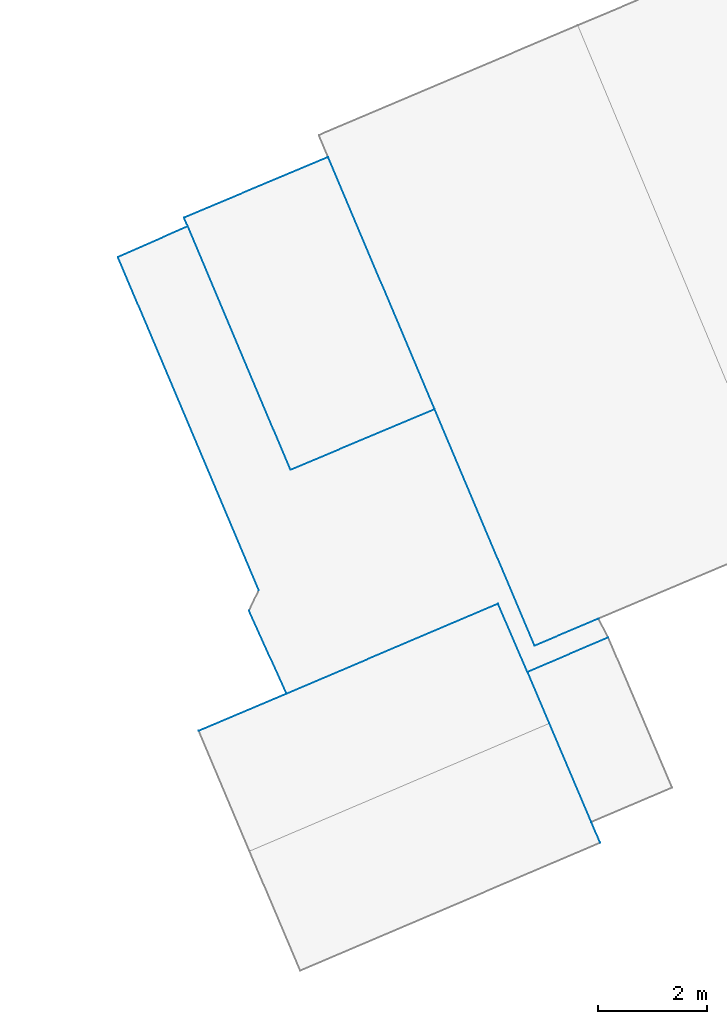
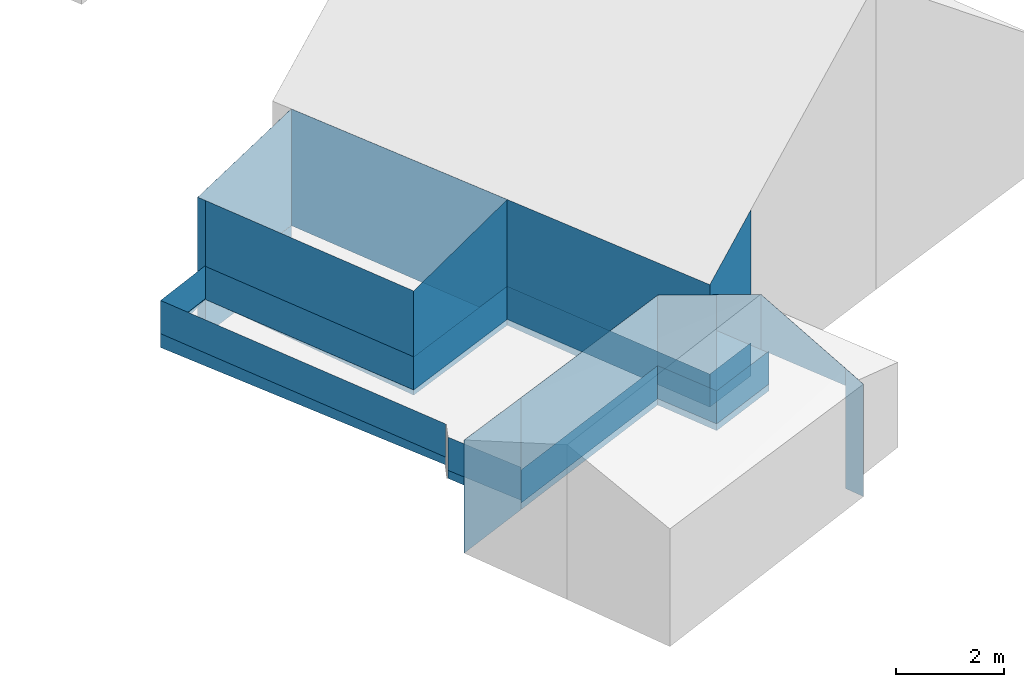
# Not in any storey, part 31 of 59: 40 walls.
"""IFC4 building model written with IfcOpenShell, lengths in metres."""

from ifc_helpers import new_model, entity, si_unit, converted_unit, frame, origin, place, context, subcontext, project, spatial, face_set, surface_model, element, save


model = new_model("IFC4")

# Units and contexts
model_context = context("Model", 3, precision=1e-05, world=origin())
body_context = subcontext(model_context, "Body", "Model", "MODEL_VIEW")
ifc_project = project(units=[converted_unit("PLANEANGLEUNIT", "DEGREE", entity("IfcRatioMeasure", 0.0174532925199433), si_unit("PLANEANGLEUNIT", "RADIAN"), dimensions=[0, 0, 0, 0, 0, 0, 0]), si_unit("AREAUNIT", "SQUARE_METRE"), si_unit("LENGTHUNIT", "METRE")], contexts=[model_context])

# Site, building
site_placement = place(None, origin())
site = spatial("IfcSite", under=ifc_project, at=site_placement, Name="_site")
building_1_placement = place(site_placement, origin())
building_1 = spatial("IfcBuilding", under=site, at=building_1_placement, Name="_building")

# Walls
wall_1_placement = place(building_1_placement, origin())
element("IfcWall", 1, at=wall_1_placement, inside=building_1, Name="Wall", PredefinedType="NOTDEFINED", context=body_context, shape_type="SurfaceModel", body=[
    surface_model("IfcFaceBasedSurfaceModel", [(205.62, 189.57, 219.91), (206.39, 187.76, 219.06), (206.39, 187.76, 218.67), (205.62, 189.57, 218.663)], [face_set([[[0, 1, 2, 3]]])]),
])
wall_2_placement = place(building_1_placement, origin())
element("IfcWall", 2, at=wall_2_placement, inside=building_1, Name="Wall", PredefinedType="NOTDEFINED", context=body_context, shape_type="SurfaceModel", body=[
    surface_model("IfcFaceBasedSurfaceModel", [(205.22, 190.51, 219.47), (205.62, 189.57, 219.91), (205.62, 189.57, 218.663), (205.22, 190.51, 218.66)], [face_set([[[0, 1, 2, 3]]])]),
])
wall_3_placement = place(building_1_placement, origin())
element("IfcWall", 3, at=wall_3_placement, inside=building_1, Name="Wall", PredefinedType="NOTDEFINED", context=body_context, shape_type="SurfaceModel", body=[
    surface_model("IfcFaceBasedSurfaceModel", [(206.521, 191.488, 220.352), (205.35, 190.99, 219.36), (205.35, 190.99, 216.399), (206.521, 191.488, 216.399)], [face_set([[[0, 1, 2, 3]]])]),
])
wall_4_placement = place(building_1_placement, origin())
element("IfcWall", 4, at=wall_4_placement, inside=building_1, Name="Wall", PredefinedType="NOTDEFINED", context=body_context, shape_type="SurfaceModel", body=[
    surface_model("IfcFaceBasedSurfaceModel", [(204.68, 191.76, 218.89), (205.22, 190.51, 219.47), (205.22, 190.51, 216.396), (204.68, 191.76, 216.408)], [face_set([[[0, 1, 2, 3]]])]),
])
wall_5_placement = place(building_1_placement, origin())
element("IfcWall", 5, at=wall_5_placement, inside=building_1, Name="Wall", PredefinedType="NOTDEFINED", context=body_context, shape_type="SurfaceModel", body=[
    surface_model("IfcFaceBasedSurfaceModel", [(205.35, 190.99, 219.36), (203.52, 195.32, 219.3), (203.52, 195.32, 216.458), (205.35, 190.99, 216.399)], [face_set([[[0, 1, 2, 3]]])]),
])
wall_6_placement = place(building_1_placement, origin())
element("IfcWall", 6, at=wall_6_placement, inside=building_1, Name="Wall", PredefinedType="NOTDEFINED", context=body_context, shape_type="SurfaceModel", body=[
    surface_model("IfcFaceBasedSurfaceModel", [(203.52, 195.32, 219.3), (200.88, 194.211, 218.83), (200.88, 194.211, 216.474), (203.52, 195.32, 216.458)], [face_set([[[0, 1, 2, 3]]])]),
])
wall_7_placement = place(building_1_placement, origin())
element("IfcWall", 7, at=wall_7_placement, inside=building_1, Name="Wall", PredefinedType="NOTDEFINED", context=body_context, shape_type="SurfaceModel", body=[
    surface_model("IfcFaceBasedSurfaceModel", [(206.39, 187.76, 219.06), (206.55, 187.381, 218.88), (206.55, 187.381, 216.339), (206.39, 187.76, 216.346)], [face_set([[[0, 1, 2, 3]]])]),
])
wall_8_placement = place(building_1_placement, origin())
element("IfcWall", 8, at=wall_8_placement, inside=building_1, Name="Wall", PredefinedType="NOTDEFINED", context=body_context, shape_type="SurfaceModel", body=[
    surface_model("IfcFaceBasedSurfaceModel", [(199.2, 189.43, 218.95), (200.809, 190.111, 218.932), (200.809, 190.111, 216.397), (199.2, 189.43, 216.391)], [face_set([[[0, 1, 2, 3]]])]),
])
wall_9_placement = place(building_1_placement, origin())
element("IfcWall", 9, at=wall_9_placement, inside=building_1, Name="Wall", PredefinedType="NOTDEFINED", context=body_context, shape_type="SurfaceModel", body=[
    surface_model("IfcFaceBasedSurfaceModel", [(200.809, 190.111, 218.932), (204.68, 191.76, 218.89), (204.68, 191.76, 216.408), (200.809, 190.111, 216.397)], [face_set([[[0, 1, 2, 3]]])]),
])
wall_10_placement = place(building_1_placement, origin())
element("IfcWall", 10, at=wall_10_placement, inside=building_1, Name="Wall", PredefinedType="NOTDEFINED", context=body_context, shape_type="SurfaceModel", body=[
    surface_model("IfcFaceBasedSurfaceModel", [(200.88, 194.211, 218.83), (199.0, 198.67, 218.83), (199.0, 198.67, 216.604), (200.88, 194.211, 216.474)], [face_set([[[0, 1, 2, 3]]])]),
])
wall_11_placement = place(building_1_placement, origin())
element("IfcWall", 11, at=wall_11_placement, inside=building_1, Name="Wall", PredefinedType="NOTDEFINED", context=body_context, shape_type="SurfaceModel", body=[
    surface_model("IfcFaceBasedSurfaceModel", [(205.22, 190.51, 218.66), (206.7, 191.141, 218.29), (206.7, 191.141, 216.396), (205.22, 190.51, 216.396)], [face_set([[[0, 1, 2, 3]]])]),
])
wall_12_placement = place(building_1_placement, origin())
element("IfcWall", 12, at=wall_12_placement, inside=building_1, Name="Wall", PredefinedType="NOTDEFINED", context=body_context, shape_type="SurfaceModel", body=[
    surface_model("IfcFaceBasedSurfaceModel", [(197.72, 198.109, 216.608), (199.0, 198.67, 216.608), (199.0, 198.67, 217.358), (197.72, 198.109, 217.358)], [face_set([[[0, 1, 2, 3]]])]),
])
wall_13_placement = place(building_1_placement, origin())
element("IfcWall", 13, at=wall_13_placement, inside=building_1, Name="Wall", PredefinedType="NOTDEFINED", context=body_context, shape_type="SurfaceModel", body=[
    surface_model("IfcFaceBasedSurfaceModel", [(200.3, 192.01, 216.608), (197.72, 198.109, 216.608), (197.72, 198.109, 217.358), (200.3, 192.01, 217.358)], [face_set([[[0, 1, 2, 3]]])]),
])
wall_14_placement = place(building_1_placement, origin())
element("IfcWall", 14, at=wall_14_placement, inside=building_1, Name="Wall", PredefinedType="NOTDEFINED", context=body_context, shape_type="SurfaceModel", body=[
    surface_model("IfcFaceBasedSurfaceModel", [(200.809, 190.111, 216.608), (200.12, 191.631, 216.608), (200.12, 191.631, 217.358), (200.809, 190.111, 217.358)], [face_set([[[0, 1, 2, 3]]])]),
])
wall_15_placement = place(building_1_placement, origin())
element("IfcWall", 15, at=wall_15_placement, inside=building_1, Name="Wall", PredefinedType="NOTDEFINED", context=body_context, shape_type="SurfaceModel", body=[
    surface_model("IfcFaceBasedSurfaceModel", [(197.72, 198.109, 216.608), (199.0, 198.67, 216.608), (199.0, 198.67, 217.358), (197.72, 198.109, 217.358)], [face_set([[[0, 1, 2, 3]]])]),
])
wall_16_placement = place(building_1_placement, origin())
element("IfcWall", 16, at=wall_16_placement, inside=building_1, Name="Wall", PredefinedType="NOTDEFINED", context=body_context, shape_type="SurfaceModel", body=[
    surface_model("IfcFaceBasedSurfaceModel", [(200.3, 192.01, 216.608), (197.72, 198.109, 216.608), (197.72, 198.109, 217.358), (200.3, 192.01, 217.358)], [face_set([[[0, 1, 2, 3]]])]),
])
wall_17_placement = place(building_1_placement, origin())
element("IfcWall", 17, at=wall_17_placement, inside=building_1, Name="Wall", PredefinedType="NOTDEFINED", context=body_context, shape_type="SurfaceModel", body=[
    surface_model("IfcFaceBasedSurfaceModel", [(200.809, 190.111, 216.608), (200.12, 191.631, 216.608), (200.12, 191.631, 217.358), (200.809, 190.111, 217.358)], [face_set([[[0, 1, 2, 3]]])]),
])
wall_18_placement = place(building_1_placement, origin())
element("IfcWall", 18, at=wall_18_placement, inside=building_1, Name="Wall", PredefinedType="NOTDEFINED", context=body_context, shape_type="SurfaceModel", body=[
    surface_model("IfcFaceBasedSurfaceModel", [(200.88, 194.211, 216.591), (199.0, 198.67, 216.591), (199.0, 198.67, 217.341), (200.88, 194.211, 217.341)], [face_set([[[0, 1, 2, 3]]])]),
])
wall_19_placement = place(building_1_placement, origin())
element("IfcWall", 19, at=wall_19_placement, inside=building_1, Name="Wall", PredefinedType="NOTDEFINED", context=body_context, shape_type="SurfaceModel", body=[
    surface_model("IfcFaceBasedSurfaceModel", [(203.52, 195.32, 216.591), (200.88, 194.211, 216.591), (200.88, 194.211, 217.341), (203.52, 195.32, 217.341)], [face_set([[[0, 1, 2, 3]]])]),
])
wall_20_placement = place(building_1_placement, origin())
element("IfcWall", 20, at=wall_20_placement, inside=building_1, Name="Wall", PredefinedType="NOTDEFINED", context=body_context, shape_type="SurfaceModel", body=[
    surface_model("IfcFaceBasedSurfaceModel", [(200.88, 194.211, 216.591), (199.0, 198.67, 216.591), (199.0, 198.67, 217.341), (200.88, 194.211, 217.341)], [face_set([[[0, 1, 2, 3]]])]),
])
wall_21_placement = place(building_1_placement, origin())
element("IfcWall", 21, at=wall_21_placement, inside=building_1, Name="Wall", PredefinedType="NOTDEFINED", context=body_context, shape_type="SurfaceModel", body=[
    surface_model("IfcFaceBasedSurfaceModel", [(203.52, 195.32, 216.591), (200.88, 194.211, 216.591), (200.88, 194.211, 217.341), (203.52, 195.32, 217.341)], [face_set([[[0, 1, 2, 3]]])]),
])
wall_22_placement = place(building_1_placement, origin())
element("IfcWall", 22, at=wall_22_placement, inside=building_1, Name="Wall", PredefinedType="NOTDEFINED", context=body_context, shape_type="SurfaceModel", body=[
    surface_model("IfcFaceBasedSurfaceModel", [(205.35, 190.99, 216.591), (203.52, 195.32, 216.591), (203.52, 195.32, 217.341), (205.35, 190.99, 217.341)], [face_set([[[0, 1, 2, 3]]])]),
])
wall_23_placement = place(building_1_placement, origin())
element("IfcWall", 23, at=wall_23_placement, inside=building_1, Name="Wall", PredefinedType="NOTDEFINED", context=body_context, shape_type="SurfaceModel", body=[
    surface_model("IfcFaceBasedSurfaceModel", [(206.521, 191.488, 216.591), (205.35, 190.99, 216.591), (205.35, 190.99, 217.341), (206.521, 191.488, 217.341)], [face_set([[[0, 1, 2, 3]]])]),
])
wall_24_placement = place(building_1_placement, origin())
element("IfcWall", 24, at=wall_24_placement, inside=building_1, Name="Wall", PredefinedType="NOTDEFINED", context=body_context, shape_type="SurfaceModel", body=[
    surface_model("IfcFaceBasedSurfaceModel", [(205.35, 190.99, 216.591), (203.52, 195.32, 216.591), (203.52, 195.32, 217.341), (205.35, 190.99, 217.341)], [face_set([[[0, 1, 2, 3]]])]),
])
wall_25_placement = place(building_1_placement, origin())
element("IfcWall", 25, at=wall_25_placement, inside=building_1, Name="Wall", PredefinedType="NOTDEFINED", context=body_context, shape_type="SurfaceModel", body=[
    surface_model("IfcFaceBasedSurfaceModel", [(206.521, 191.488, 216.591), (205.35, 190.99, 216.591), (205.35, 190.99, 217.341), (206.521, 191.488, 217.341)], [face_set([[[0, 1, 2, 3]]])]),
])
wall_26_placement = place(building_1_placement, origin())
element("IfcWall", 26, at=wall_26_placement, inside=building_1, Name="Wall", PredefinedType="NOTDEFINED", context=body_context, shape_type="SurfaceModel", body=[
    surface_model("IfcFaceBasedSurfaceModel", [(204.68, 191.76, 216.548), (200.809, 190.111, 216.548), (200.809, 190.111, 217.298), (204.68, 191.76, 217.298)], [face_set([[[0, 1, 2, 3]]])]),
])
wall_27_placement = place(building_1_placement, origin())
element("IfcWall", 27, at=wall_27_placement, inside=building_1, Name="Wall", PredefinedType="NOTDEFINED", context=body_context, shape_type="SurfaceModel", body=[
    surface_model("IfcFaceBasedSurfaceModel", [(205.22, 190.51, 216.548), (204.68, 191.76, 216.548), (204.68, 191.76, 217.298), (205.22, 190.51, 217.298)], [face_set([[[0, 1, 2, 3]]])]),
])
wall_28_placement = place(building_1_placement, origin())
element("IfcWall", 28, at=wall_28_placement, inside=building_1, Name="Wall", PredefinedType="NOTDEFINED", context=body_context, shape_type="SurfaceModel", body=[
    surface_model("IfcFaceBasedSurfaceModel", [(204.68, 191.76, 216.548), (200.809, 190.111, 216.548), (200.809, 190.111, 217.298), (204.68, 191.76, 217.298)], [face_set([[[0, 1, 2, 3]]])]),
])
wall_29_placement = place(building_1_placement, origin())
element("IfcWall", 29, at=wall_29_placement, inside=building_1, Name="Wall", PredefinedType="NOTDEFINED", context=body_context, shape_type="SurfaceModel", body=[
    surface_model("IfcFaceBasedSurfaceModel", [(205.22, 190.51, 216.548), (204.68, 191.76, 216.548), (204.68, 191.76, 217.298), (205.22, 190.51, 217.298)], [face_set([[[0, 1, 2, 3]]])]),
])
for number, where, name in (
    (30, (0.0, 0.0, 0.0), "Wall"),
    (31, (0.0, 0.0, 0.0), "Wall"),
):
    element("IfcWall", number, at=place(building_1_placement, frame(where)), inside=building_1, Name=name, PredefinedType="NOTDEFINED", context=body_context, shape_type="SurfaceModel", body=[
        surface_model("IfcFaceBasedSurfaceModel", [(206.7, 191.141, 216.548), (205.22, 190.51, 216.548), (205.22, 190.51, 217.298), (206.7, 191.141, 217.298)], [face_set([[[0, 1, 2, 3]]])]),
    ])
wall_30_placement = place(building_1_placement, origin())
element("IfcWall", 32, at=wall_30_placement, inside=building_1, Name="Wall", PredefinedType="NOTDEFINED", context=body_context, shape_type="SurfaceModel", body=[
    surface_model("IfcFaceBasedSurfaceModel", [(200.809, 190.111, 216.608), (200.12, 191.631, 216.608), (200.12, 191.631, 216.428), (200.809, 190.111, 216.397)], [face_set([[[0, 1, 2, 3]]])]),
])
wall_31_placement = place(building_1_placement, origin())
element("IfcWall", 33, at=wall_31_placement, inside=building_1, Name="Wall", PredefinedType="NOTDEFINED", context=body_context, shape_type="SurfaceModel", body=[
    surface_model("IfcFaceBasedSurfaceModel", [(197.72, 198.109, 216.608), (199.0, 198.67, 216.608), (199.0, 198.67, 216.604), (197.72, 198.109, 216.294)], [face_set([[[0, 1, 2, 3]]])]),
])
wall_32_placement = place(building_1_placement, origin())
element("IfcWall", 34, at=wall_32_placement, inside=building_1, Name="Wall", PredefinedType="NOTDEFINED", context=body_context, shape_type="SurfaceModel", body=[
    surface_model("IfcFaceBasedSurfaceModel", [(200.3, 192.01, 216.608), (197.72, 198.109, 216.608), (197.72, 198.109, 216.294), (200.3, 192.01, 216.434)], [face_set([[[0, 1, 2, 3]]])]),
])

# Building
building_2_placement = place(site_placement, origin())
building_2 = spatial("IfcBuilding", under=site, at=building_2_placement, Name="_building")

# Walls
wall_33_placement = place(building_2_placement, origin())
element("IfcWall", 35, at=wall_33_placement, inside=building_2, Name="Wall", PredefinedType="NOTDEFINED", context=body_context, shape_type="SurfaceModel", body=[
    surface_model("IfcFaceBasedSurfaceModel", [(201.57, 199.939, 219.23), (203.52, 195.32, 219.3), (203.52, 195.32, 216.591), (201.57, 199.939, 216.591)], [face_set([[[0, 1, 2, 3]]])]),
])
wall_34_placement = place(building_2_placement, origin())
element("IfcWall", 36, at=wall_34_placement, inside=building_2, Name="Wall", PredefinedType="NOTDEFINED", context=body_context, shape_type="SurfaceModel", body=[
    surface_model("IfcFaceBasedSurfaceModel", [(203.52, 195.32, 219.3), (201.57, 199.939, 219.23), (201.57, 199.939, 216.591), (203.52, 195.32, 216.591)], [face_set([[[0, 1, 2, 3]]])]),
])
wall_35_placement = place(building_2_placement, origin())
element("IfcWall", 37, at=wall_35_placement, inside=building_2, Name="Wall", PredefinedType="NOTDEFINED", context=body_context, shape_type="SurfaceModel", body=[
    surface_model("IfcFaceBasedSurfaceModel", [(198.93, 198.83, 218.83), (201.57, 199.939, 219.23), (201.57, 199.939, 216.592), (198.93, 198.83, 216.609)], [face_set([[[0, 1, 2, 3]]])]),
])
wall_36_placement = place(building_2_placement, origin())
element("IfcWall", 38, at=wall_36_placement, inside=building_2, Name="Wall", PredefinedType="NOTDEFINED", context=body_context, shape_type="SurfaceModel", body=[
    surface_model("IfcFaceBasedSurfaceModel", [(199.0, 198.67, 218.83), (198.93, 198.83, 218.83), (198.93, 198.83, 216.609), (199.0, 198.67, 216.604)], [face_set([[[0, 1, 2, 3]]])]),
])
wall_37_placement = place(building_2_placement, origin())
element("IfcWall", 39, at=wall_37_placement, inside=building_2, Name="Wall", PredefinedType="NOTDEFINED", context=body_context, shape_type="SurfaceModel", body=[
    surface_model("IfcFaceBasedSurfaceModel", [(198.93, 198.83, 216.591), (201.57, 199.939, 216.591), (201.57, 199.939, 215.591), (198.93, 198.83, 215.591)], [face_set([[[0, 1, 2, 3]]])]),
])
wall_38_placement = place(building_2_placement, origin())
element("IfcWall", 40, at=wall_38_placement, inside=building_2, Name="Wall", PredefinedType="NOTDEFINED", context=body_context, shape_type="SurfaceModel", body=[
    surface_model("IfcFaceBasedSurfaceModel", [(199.0, 198.67, 216.591), (198.93, 198.83, 216.591), (198.93, 198.83, 215.591), (199.0, 198.67, 215.591)], [face_set([[[0, 1, 2, 3]]])]),
])

save(model, "model.ifc")
